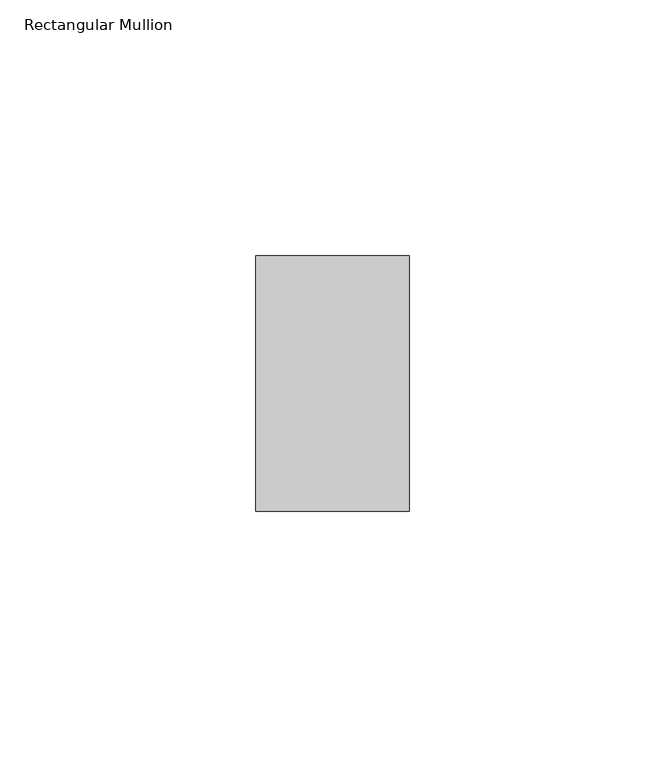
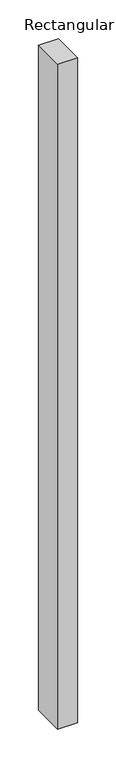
"""IFC4 building model written with IfcOpenShell, lengths in millimetres: member geometry, Rectangular Mullion : ARQ_TV_MULL_50x30mm."""

from ifc_helpers import new_model, si_unit, frame, origin, place, context, project, spatial, polyline, outline, extrude, source, transform, mapped, element, save


def rectangular_mullion_d5adadfc(model_context):
    return source(origin(), model_context, "Body", "SweptSolid", [
        extrude(outline(polyline([(15.0, 25.0), (15.0, -25.0), (-15.0, -25.0), (-15.0, 25.0), (15.0, 25.0)])), frame((0.0, 0.0, -1052.4284367), z_axis=(0.0, 0.0, 1.0), x_axis=(1.0, 0.0, 0.0)), (0.0, 0.0, 1.0), 1052.4284367),
    ])


if __name__ == "__main__":
    model = new_model("IFC4")
    model_context = context("Model", 3, world=origin())
    ifc_project = project(units=[si_unit("LENGTHUNIT", "METRE", prefix="MILLI")], contexts=[model_context])
    site = spatial("IfcSite", under=ifc_project)
    building = spatial("IfcBuilding", under=site)
    placement = place(None, origin())
    rectangular_mullion_shape = rectangular_mullion_d5adadfc(model_context)
    element("IfcMember", 1, ObjectType="Rectangular Mullion : ARQ_TV_MULL_50x30mm", at=placement, inside=building, context=model_context, shape_type="MappedRepresentation", body=[
        mapped(rectangular_mullion_shape, transform((0.0, 0.0, 0.0), x_axis=(1.0, 0.0, 0.0), y_axis=(0.0, 1.0, 0.0), z_axis=(0.0, 0.0, 1.0))),
    ])
    save(model, "model.ifc")
